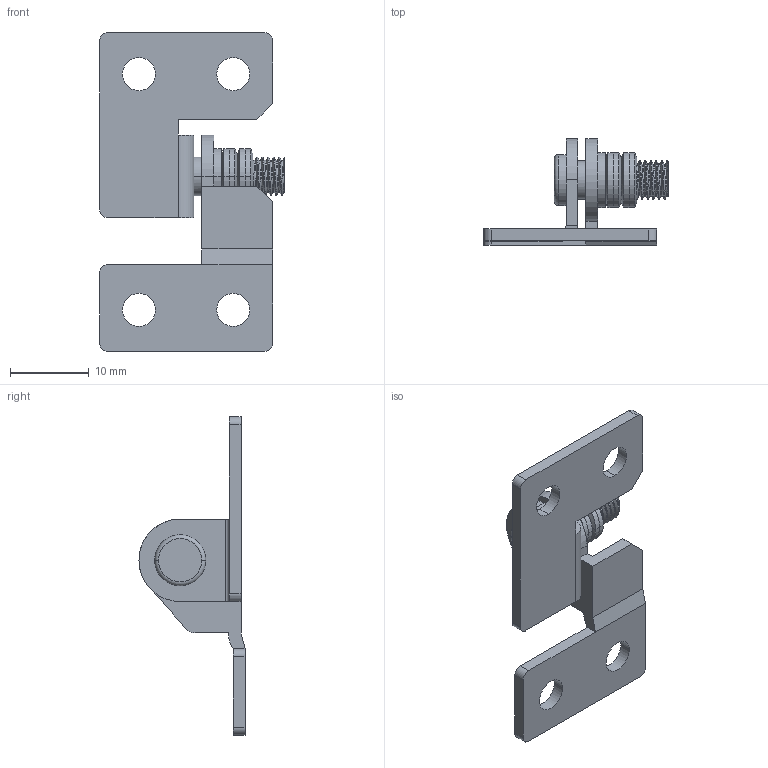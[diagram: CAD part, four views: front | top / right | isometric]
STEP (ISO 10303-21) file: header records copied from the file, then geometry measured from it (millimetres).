
FILE_DESCRIPTION (( 'STEP AP203' ), '1' );
FILE_NAME ('XG11-025L.STEP', '2024-01-31T00:46:26', ( '' ), ( '' ), 'SwSTEP 2.0', 'SolidWorks 2020', '' );
FILE_SCHEMA (( 'CONFIG_CONTROL_DESIGN' ));
Length unit declared in the file: millimetre
Products named in the file (1): XG11-025L
Bounding box: 23.5 x 13.5 x 40.5 mm (x, y, z)
Volume: 1650.3 mm3; surface area: 2812.2 mm2
Topology: 7 solids, 7 shells, 121 faces, 289 edges, 185 vertices
Faces by surface type: cylinder 60, plane 45, cone 8, bspline 6, torus 2
Entity records: 4728 total; most frequent: CARTESIAN_POINT 1849, DIRECTION 590, ORIENTED_EDGE 578, EDGE_CURVE 289, AXIS2_PLACEMENT_3D 225, VERTEX_POINT 185, EDGE_LOOP 144, LINE 140
